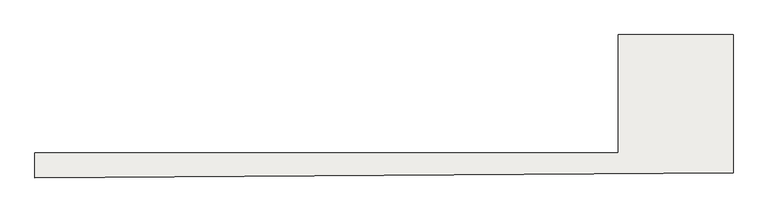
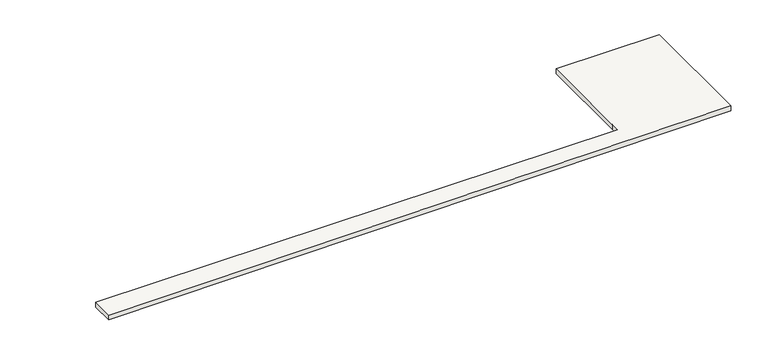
"""IFC4 building model written with IfcOpenShell, lengths in millimetres: slab geometry."""

from ifc_helpers import new_model, si_unit, frame, origin, place, context, project, spatial, polyline, outline, extrude, source, transform, mapped, element, save


def slab_9fd87269(model_context):
    return source(origin(), model_context, "Body", "SweptSolid", [
        extrude(outline(polyline([(4900.195, 1005.0), (4900.185, -935.51), (-4900.195, -1005.0), (-4900.195, -655.0), (3289.795, -655.0), (3289.795, -515.0), (3284.785, -515.0), (3284.785, 1005.0), (4900.195, 1005.0)])), frame((0.0, 0.0, -80.0), z_axis=(0.0, 0.0, 1.0), x_axis=(1.0, 0.0, 0.0)), (0.0, 0.0, 1.0), 80.0),
    ])


if __name__ == "__main__":
    model = new_model("IFC4")
    model_context = context("Model", 3, world=origin())
    ifc_project = project(units=[si_unit("LENGTHUNIT", "METRE", prefix="MILLI")], contexts=[model_context])
    site = spatial("IfcSite", under=ifc_project)
    building = spatial("IfcBuilding", under=site)
    placement = place(None, origin())
    slab_shape = slab_9fd87269(model_context)
    element("IfcSlab", 1, at=placement, inside=building, context=model_context, shape_type="MappedRepresentation", body=[
        mapped(slab_shape, transform((0.0, 0.0, 0.0), x_axis=(1.0, 0.0, 0.0), y_axis=(0.0, 1.0, 0.0), z_axis=(0.0, 0.0, 1.0))),
    ])
    save(model, "model.ifc")
